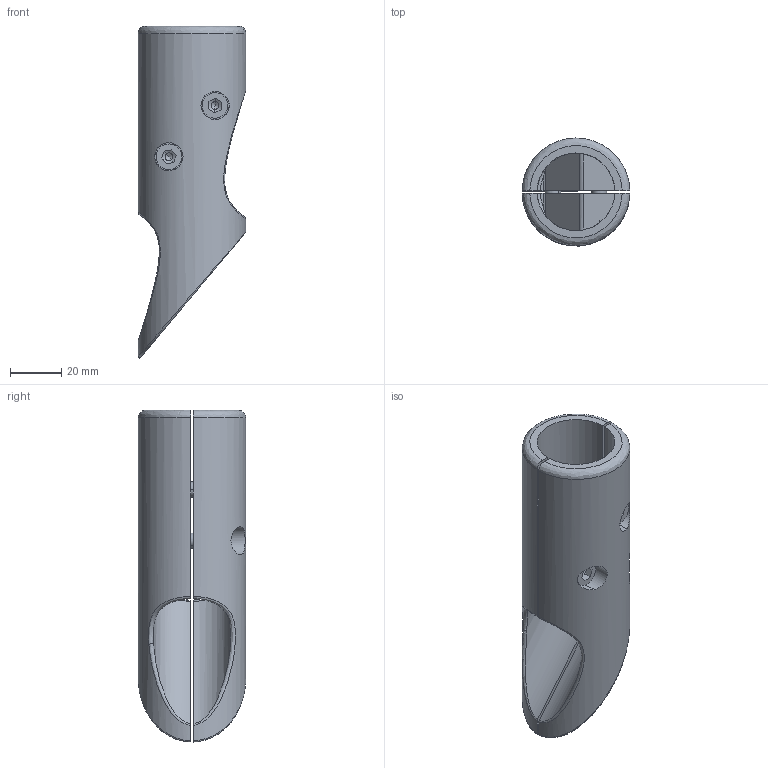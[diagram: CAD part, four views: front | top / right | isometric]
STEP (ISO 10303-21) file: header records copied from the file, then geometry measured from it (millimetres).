
FILE_DESCRIPTION (( 'STEP AP214' ), '1' );
FILE_NAME ('31000410007.STEP', '2024-09-02T09:45:29', ( '' ), ( '' ), 'SwSTEP 2.0', 'SolidWorks 2016', '' );
FILE_SCHEMA (( 'AUTOMOTIVE_DESIGN' ));
Length unit declared in the file: millimetre
Products named in the file (4): DIN 6912  (Regelgewinde) M6 x 16_2; 31000410007; 1866_Schale 1; 1866_Schale 2
Assembly tree (4 placements, depth 2):
  31000410007
    1866_Schale 1
    1866_Schale 2
    DIN 6912  (Regelgewinde) M6 x 16_2  x2
Bounding box: 41.99 x 42 x 129.49 mm (x, y, z)
Volume: 76952.9 mm3; surface area: 27806.1 mm2
Topology: 4 solids, 4 shells, 96 faces, 248 edges, 160 vertices
Faces by surface type: cylinder 34, plane 34, cone 16, bspline 10, torus 2
Entity records: 7673 total; most frequent: CARTESIAN_POINT 4967, ORIENTED_EDGE 380, DIRECTION 328, EDGE_CURVE 190, VERTEX_POINT 127, AXIS2_PLACEMENT_3D 126, EDGE_LOOP 85, UNCERTAINTY_MEASURE_WITH_UNIT 85
